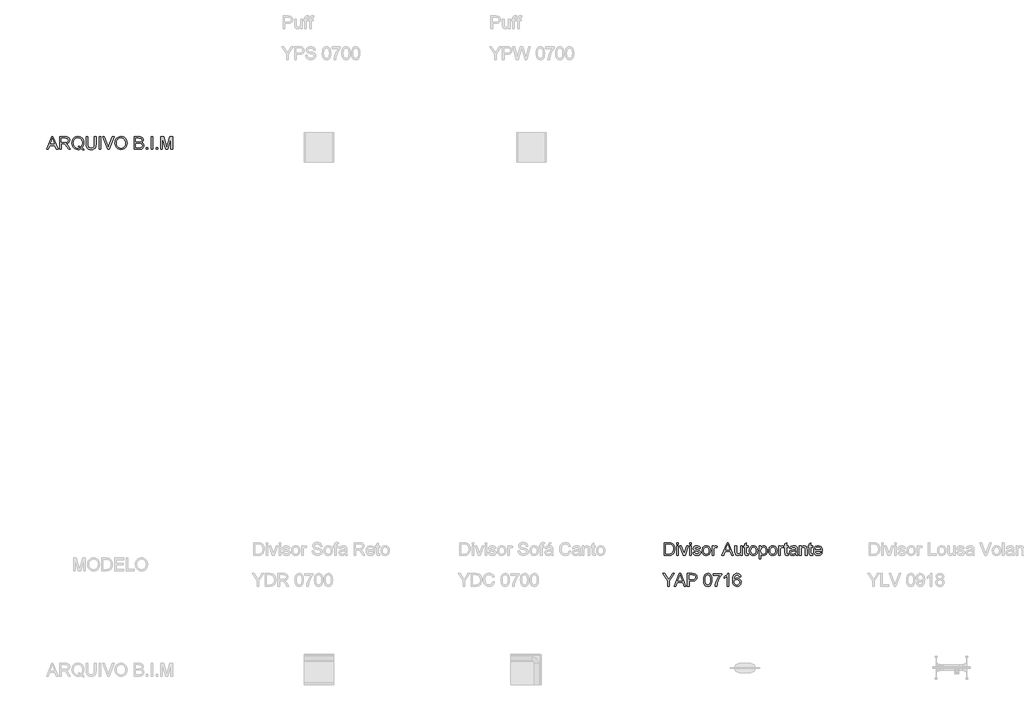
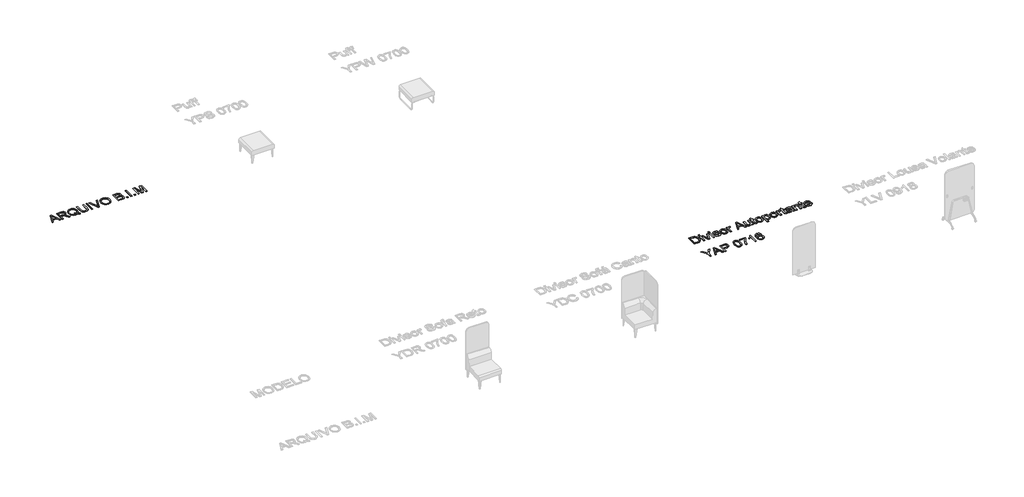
# One storey, part 7 of 26: 2 proxies.
"""IFC4 building model written with IfcOpenShell, lengths in millimetres."""

from ifc_helpers import new_model, si_unit, origin, origin_with_axes, place, context, project, spatial, polyline, outline, extrude, element, save

model = new_model("IFC4")

# Units and contexts
model_context = context("Model", 3, world=origin())
ifc_project = project(units=[si_unit("LENGTHUNIT", "METRE", prefix="MILLI")], contexts=[model_context])

# Site, building, storey
site = spatial("IfcSite", under=ifc_project)
building = spatial("IfcBuilding", under=site)
storey = spatial("IfcBuildingStorey", under=building, Name="Marelli - Linha YOUNG - Planta Baixa", Elevation=0.0)

# Proxies
placement = place(None, origin())
element("IfcBuildingElementProxy", 1, Name="300mm Arial", ObjectType="300mm Arial", at=placement, inside=storey, context=model_context, shape_type="SweptSolid", body=[
    extrude(outline(polyline([(-20609.419598, -10280.5663201), (-20489.1221856, -9979.1973896), (-20457.0428756, -9979.1973896), (-20336.7454632, -10280.5663201), (-20376.550295, -10280.5663201), (-20411.0576262, -10186.3885293), (-20535.1810114, -10186.3885293), (-20569.6147661, -10280.5663201), (-20609.419598, -10280.5663201)]), holes=[polyline([(-20521.3486483, -10148.717413), (-20424.8164128, -10148.717413), (-20451.9661041, -10074.6259792), (-20473.0825306, -10016.8685059), (-20491.8445123, -10068.1512561), (-20521.3486483, -10148.717413)])]), origin_with_axes(), (0.0, 0.0, 1.0), 10.0),
    extrude(outline(polyline([(-20296.4991729, -10280.5663201), (-20296.4991729, -9979.1973896), (-20166.6368286, -9979.1973896), (-20131.7340243, -9981.2299376), (-20106.3409696, -9987.3275817), (-20087.7813229, -9998.5847708), (-20073.3787428, -10016.0959537), (-20064.1357077, -10037.8101885), (-20061.054696, -10061.6765329), (-20066.1590587, -10091.3646099), (-20081.4721467, -10115.9759154), (-20093.0719259, -10126.0052983), (-20107.4538126, -10134.0205273), (-20144.5639089, -10144.0085235), (-20123.1531768, -10160.1217548), (-20092.6189712, -10198.8965171), (-20042.3662906, -10280.5663201), (-20086.144248, -10280.5663201), (-20125.3604687, -10218.0999573), (-20153.6873824, -10176.750021), (-20173.5897983, -10157.2154871), (-20191.5056515, -10150.0417882), (-20213.357842, -10148.717413), (-20258.8280566, -10148.717413), (-20258.8280566, -10280.5663201), (-20296.4991729, -10280.5663201)]), holes=[polyline([(-20258.8280566, -10111.0462967), (-20174.5095033, -10111.0462967), (-20150.293671, -10109.7127245), (-20131.5040981, -10105.7120078), (-20117.3590353, -10098.7774322), (-20107.0767336, -10088.6422832), (-20100.8135426, -10076.3826157), (-20098.7258123, -10063.0744845), (-20102.7081349, -10044.6987789), (-20114.6551027, -10029.8915286), (-20135.2105092, -10020.1242616), (-20165.0181478, -10016.8685059), (-20258.8280566, -10016.8685059), (-20258.8280566, -10111.0462967)])]), origin_with_axes(), (0.0, 0.0, 1.0), 10.0),
    extrude(outline(polyline([(-19768.7356626, -10244.4403081), (-19744.4002686, -10263.036743), (-19722.0146492, -10275.8574305), (-19732.1681923, -10303.4485802), (-19763.2358268, -10289.0460001), (-19794.1930967, -10268.205485), (-19829.0499157, -10281.0077785), (-19867.4016137, -10285.2752096), (-19905.9372527, -10280.3547879), (-19940.7572836, -10265.5935229), (-19969.9211287, -10241.9203165), (-19991.4882107, -10210.2640708), (-20004.814736, -10172.3630282), (-20009.2569111, -10129.9554312), (-20004.823933, -10087.511046), (-19991.5249989, -10049.0581805), (-19970.0406904, -10016.9512794), (-19941.0515892, -9993.5447874), (-19906.360317, -9979.2525719), (-19867.7694957, -9974.4885001), (-19828.8751718, -9979.3629365), (-19794.0091557, -9993.9862458), (-19765.0660397, -10017.3835407), (-19743.9404161, -10048.5799339), (-19731.0277581, -10085.9199564), (-19726.7235388, -10127.7481393), (-19729.3355009, -10162.5313819), (-19737.1713874, -10193.5990164), (-19750.2863806, -10220.9142546), (-19768.7356626, -10244.4403081)]), holes=[polyline([(-19857.0273415, -10194.3347804), (-19825.3527017, -10206.3093393), (-19799.784903, -10222.9559996), (-19784.3016695, -10205.4816049), (-19773.2422171, -10184.1076609), (-19766.6065456, -10158.8341679), (-19764.3946551, -10129.6611256), (-19767.521652, -10096.5057608), (-19776.9026429, -10067.8201623), (-19792.3077015, -10044.3308969), (-19813.5069014, -10026.7645316), (-19839.065503, -10015.8108452), (-19867.5487665, -10012.1596164), (-19889.033075, -10014.0059242), (-19908.6043972, -10019.5448474), (-19926.2627329, -10028.7763863), (-19942.0080823, -10041.7005406), (-19954.9483315, -10058.2897193), (-19964.1913666, -10078.5163313), (-19969.7371877, -10102.3803764), (-19971.5857948, -10129.8818548), (-19969.7578811, -10156.6659634), (-19964.2741401, -10180.1437324), (-19955.1345718, -10200.3151621), (-19942.3391761, -10217.1802523), (-19926.7018921, -10230.4906827), (-19909.0366585, -10239.998133), (-19889.3434755, -10245.7026032), (-19867.6223429, -10247.6040933), (-19846.7082515, -10245.6727128), (-19827.081747, -10239.8785714), (-19846.3771577, -10229.853787), (-19866.7394261, -10223.1767288), (-19857.0273415, -10194.3347804)])]), origin_with_axes(), (0.0, 0.0, 1.0), 10.0),
    extrude(outline(polyline([(-19472.4435037, -9979.1973896), (-19434.7723874, -9979.1973896), (-19434.7723874, -10153.0584205), (-19437.3291673, -10193.7737604), (-19444.9995069, -10225.1265034), (-19459.3285106, -10249.3147446), (-19481.8612828, -10268.5365788), (-19512.6530058, -10281.0905519), (-19551.7588619, -10285.2752096), (-19590.0093923, -10281.6331779), (-19620.5895832, -10270.7070826), (-19643.5086315, -10252.8740029), (-19658.7757343, -10228.5110178), (-19667.3565818, -10195.8338995), (-19670.2168643, -10153.0584205), (-19670.2168643, -9979.1973896), (-19632.545748, -9979.1973896), (-19632.545748, -10151.7340454), (-19630.6879439, -10185.588386), (-19625.1145317, -10209.1604248), (-19615.0161709, -10225.4851883), (-19599.5835212, -10237.597703), (-19579.4603761, -10245.1024957), (-19555.290529, -10247.6040933), (-19516.9756192, -10242.6560805), (-19502.6328199, -10236.4710644), (-19491.499791, -10227.812042), (-19483.1626653, -10215.6351479), (-19477.2075755, -10198.8965171), (-19472.4435037, -10151.7340454), (-19472.4435037, -9979.1973896)])), origin_with_axes(), (0.0, 0.0, 1.0), 10.0),
    extrude(outline(polyline([(-19364.1390443, -10280.5663201), (-19364.1390443, -9979.1973896), (-19326.467928, -9979.1973896), (-19326.467928, -10280.5663201), (-19364.1390443, -10280.5663201)])), origin_with_axes(), (0.0, 0.0, 1.0), 10.0),
    extrude(outline(polyline([(-19162.0982526, -10280.5663201), (-19282.027783, -9979.1973896), (-19241.7079163, -9979.1973896), (-19161.436065, -10196.3213432), (-19145.1756808, -10245.2496485), (-19129.1360258, -10196.3213432), (-19048.6434453, -9979.1973896), (-19008.3235786, -9979.1973896), (-19123.1763375, -10280.5663201), (-19162.0982526, -10280.5663201)])), origin_with_axes(), (0.0, 0.0, 1.0), 10.0),
    extrude(outline(polyline([(-18987.4278813, -10133.8549804), (-18984.9170866, -10098.5061192), (-18977.3847028, -10067.213157), (-18964.8307297, -10039.9760937), (-18947.2551674, -10016.7949295), (-18925.711078, -9998.2858666), (-18901.2515239, -9985.0651074), (-18873.8765049, -9977.1326519), (-18843.5860211, -9974.4885001), (-18804.0571008, -9979.454907), (-18768.6116705, -9994.3541278), (-18739.1811109, -10018.1376988), (-18717.6968024, -10049.7571563), (-18704.5634152, -10087.68579), (-18700.1856194, -10130.3968896), (-18704.7933414, -10173.6782064), (-18718.6165074, -10212.140269), (-18740.8917622, -10243.8149087), (-18770.8557507, -10266.733957), (-18805.9976783, -10280.6398965), (-18843.8067503, -10285.2752096), (-18883.942676, -10280.1524528), (-18919.5904413, -10264.7841825), (-18948.9474246, -10240.5591531), (-18970.2110039, -10208.8661192), (-18983.1236619, -10172.3998164), (-18987.4278813, -10133.8549804)]), holes=[polyline([(-18949.7567649, -10134.2228624), (-18947.873669, -10159.1974513), (-18942.2243811, -10181.3669401), (-18932.8089013, -10200.7313286), (-18919.6272295, -10217.2906169), (-18903.6036694, -10230.5527628), (-18885.6625243, -10240.0257242), (-18865.8037944, -10245.709501), (-18844.0274795, -10247.6040933), (-18821.8786842, -10245.6911069), (-18801.7854294, -10239.9521478), (-18783.7477154, -10230.3872159), (-18767.7655419, -10216.9963113), (-18754.6804392, -10200.0875351), (-18745.3339373, -10179.9689885), (-18739.7260361, -10156.6406715), (-18737.8567357, -10130.102584), (-18741.0573091, -10096.7540812), (-18750.6590292, -10067.9305269), (-18766.4135756, -10044.358488), (-18788.0726281, -10026.7645316), (-18814.2014468, -10015.8108452), (-18843.3652919, -10012.1596164), (-18864.3851494, -10013.9185522), (-18883.8874937, -10019.1953595), (-18901.8723248, -10027.9900385), (-18918.3396426, -10040.302589), (-18932.0846336, -10056.7262208), (-18941.9024844, -10077.8541437), (-18947.7931948, -10103.6863575), (-18949.7567649, -10134.2228624)])]), origin_with_axes(), (0.0, 0.0, 1.0), 10.0),
    extrude(outline(polyline([(-18530.665596, -10280.5663201), (-18530.665596, -9979.1973896), (-18415.6656844, -9979.1973896), (-18384.0370298, -9981.4138786), (-18359.3429509, -9988.0633457), (-18340.4154222, -9999.3113377), (-18326.0864185, -10015.3234015), (-18317.0641126, -10034.1589597), (-18314.0566773, -10053.8774346), (-18316.585866, -10072.0232141), (-18324.1734321, -10089.0837416), (-18336.874558, -10104.0105535), (-18354.7444259, -10115.7551862), (-18333.3980732, -10126.9020107), (-18317.6251326, -10143.8613707), (-18307.8854568, -10165.5112261), (-18304.6388982, -10190.7295368), (-18306.8553872, -10211.7447958), (-18313.5048543, -10231.2333445), (-18323.4284711, -10247.8064284), (-18335.4674094, -10260.0752929), (-18350.2102804, -10268.9596431), (-18368.2456952, -10275.3791839), (-18416.5486011, -10280.5663201), (-18530.665596, -10280.5663201)]), holes=[polyline([(-18492.9944797, -10101.6285176), (-18424.2005466, -10101.6285176), (-18384.0278328, -10098.3911561), (-18369.9655435, -10092.8085468), (-18359.8579857, -10084.4484284), (-18353.7603416, -10073.4395597), (-18351.7277936, -10059.9106994), (-18353.6223859, -10046.7773121), (-18359.3061627, -10035.3361821), (-18368.5216067, -10026.4058467), (-18381.0112004, -10020.8048433), (-18429.424471, -10016.8685059), (-18492.9944797, -10016.8685059), (-18492.9944797, -10101.6285176)]), polyline([(-18492.9944797, -10242.8952038), (-18415.7392607, -10242.8952038), (-18387.7802291, -10241.4236758), (-18364.1254168, -10233.2199073), (-18348.4536438, -10216.4812765), (-18343.8459218, -10204.6538704), (-18342.3100145, -10191.0974188), (-18344.1126363, -10175.3520694), (-18349.5205016, -10161.814012), (-18358.9658718, -10151.2282076), (-18372.8810083, -10144.3396173), (-18392.5902862, -10140.5596298), (-18419.4180807, -10139.2996339), (-18492.9944797, -10139.2996339), (-18492.9944797, -10242.8952038)])]), origin_with_axes(), (0.0, 0.0, 1.0), 10.0),
    extrude(outline(polyline([(-18248.1322237, -10280.5663201), (-18248.1322237, -10242.8952038), (-18210.4611074, -10242.8952038), (-18210.4611074, -10280.5663201), (-18248.1322237, -10280.5663201)])), origin_with_axes(), (0.0, 0.0, 1.0), 10.0),
    extrude(outline(polyline([(-18130.4099853, -10280.5663201), (-18130.4099853, -9979.1973896), (-18092.738869, -9979.1973896), (-18092.738869, -10280.5663201), (-18130.4099853, -10280.5663201)])), origin_with_axes(), (0.0, 0.0, 1.0), 10.0),
    extrude(outline(polyline([(-18012.6877468, -10280.5663201), (-18012.6877468, -10242.8952038), (-17975.0166305, -10242.8952038), (-17975.0166305, -10280.5663201), (-18012.6877468, -10280.5663201)])), origin_with_axes(), (0.0, 0.0, 1.0), 10.0),
    extrude(outline(polyline([(-17899.6743979, -10280.5663201), (-17899.6743979, -9979.1973896), (-17834.8535904, -9979.1973896), (-17773.196568, -10191.6124536), (-17760.7621565, -10235.9790223), (-17747.2976755, -10187.9336337), (-17686.6707227, -9979.1973896), (-17621.8499152, -9979.1973896), (-17621.8499152, -10280.5663201), (-17659.5210315, -10280.5663201), (-17659.5210315, -10016.8685059), (-17735.2311461, -10280.5663201), (-17786.293167, -10280.5663201), (-17862.0032816, -10016.8685059), (-17862.0032816, -10280.5663201), (-17899.6743979, -10280.5663201)])), origin_with_axes(), (0.0, 0.0, 1.0), 10.0),
])
element("IfcBuildingElementProxy", 2, Name="300mm Arial", ObjectType="300mm Arial", at=placement, inside=storey, context=model_context, shape_type="SweptSolid", body=[
    extrude(outline(polyline([(-5960.4525978, -19914.6418665), (-5960.4525978, -19613.2729361), (-5856.4891459, -19613.2729361), (-5802.7047983, -19617.6139436), (-5778.682104, -19625.983259), (-5758.411806, -19639.1718285), (-5737.571291, -19662.127665), (-5722.7272525, -19690.6753079), (-5713.8429023, -19724.262934), (-5710.8814523, -19762.3387205), (-5712.8864091, -19794.684745), (-5718.9012798, -19823.1496143), (-5728.0615414, -19847.3838408), (-5739.5026715, -19867.0379364), (-5752.6728469, -19882.5533595), (-5767.0202447, -19894.3715686), (-5783.4921611, -19903.1363571), (-5803.035892, -19909.4915186), (-5851.4859508, -19914.6418665), (-5960.4525978, -19914.6418665)]), holes=[polyline([(-5922.7814815, -19876.9707502), (-5856.121264, -19876.9707502), (-5828.5485084, -19875.6095868), (-5807.634417, -19871.5260967), (-5791.8522794, -19864.9594031), (-5779.6753854, -19856.1486293), (-5766.5879834, -19839.8422599), (-5756.7563371, -19818.7350304), (-5750.6035107, -19792.7349704), (-5748.5525686, -19761.7501093), (-5752.5716794, -19720.6944787), (-5764.6290118, -19690.3810023), (-5782.4436974, -19669.5588813), (-5803.7348678, -19656.9773171), (-5825.4031174, -19652.4523686), (-5857.1513335, -19650.9440524), (-5922.7814815, -19650.9440524), (-5922.7814815, -19876.9707502)])]), origin_with_axes(), (0.0, 0.0, 1.0), 10.0),
    extrude(outline(polyline([(-5663.7925569, -19650.9440524), (-5663.7925569, -19613.2729361), (-5626.1214406, -19613.2729361), (-5626.1214406, -19650.9440524), (-5663.7925569, -19650.9440524)])), origin_with_axes(), (0.0, 0.0, 1.0), 10.0),
    extrude(outline(polyline([(-5663.7925569, -19914.6418665), (-5663.7925569, -19693.3240582), (-5626.1214406, -19693.3240582), (-5626.1214406, -19914.6418665), (-5663.7925569, -19914.6418665)])), origin_with_axes(), (0.0, 0.0, 1.0), 10.0),
    extrude(outline(polyline([(-5515.3153836, -19914.6418665), (-5593.1592138, -19693.3240582), (-5553.2808055, -19693.3240582), (-5506.1183337, -19825.9087293), (-5491.9180887, -19870.4960271), (-5478.0121493, -19828.4103269), (-5430.5553719, -19693.3240582), (-5390.6769637, -19693.3240582), (-5467.5643006, -19914.6418665), (-5515.3153836, -19914.6418665)])), origin_with_axes(), (0.0, 0.0, 1.0), 10.0),
    extrude(outline(polyline([(-5357.7147369, -19914.6418665), (-5357.7147369, -19693.3240582), (-5320.0436206, -19693.3240582), (-5320.0436206, -19914.6418665), (-5357.7147369, -19914.6418665)])), origin_with_axes(), (0.0, 0.0, 1.0), 10.0),
    extrude(outline(polyline([(-5357.7147369, -19650.9440524), (-5357.7147369, -19613.2729361), (-5320.0436206, -19613.2729361), (-5320.0436206, -19650.9440524), (-5357.7147369, -19650.9440524)])), origin_with_axes(), (0.0, 0.0, 1.0), 10.0),
    extrude(outline(polyline([(-5277.6636147, -19848.717413), (-5239.9924984, -19844.0085235), (-5234.0512042, -19860.1217548), (-5222.5548919, -19871.9675551), (-5205.429985, -19879.2516186), (-5182.6029072, -19881.6796398), (-5160.0517409, -19879.4539537), (-5144.1960269, -19872.7768955), (-5134.815036, -19863.101599), (-5131.6880391, -19851.8811982), (-5134.8334301, -19842.2794781), (-5144.2696033, -19834.9586264), (-5183.0443656, -19824.2164721), (-5239.7717692, -19805.7855842), (-5254.1283641, -19796.5241549), (-5264.5302275, -19784.2644874), (-5270.8486008, -19769.7883309), (-5272.9547252, -19753.8774346), (-5271.262468, -19739.2817165), (-5266.1856965, -19725.8080384), (-5258.1842631, -19713.9898293), (-5247.7180203, -19704.3605181), (-5223.7689024, -19693.2136936), (-5191.3584987, -19688.6151687), (-5166.8391637, -19690.4637757), (-5145.5204021, -19696.0095968), (-5128.3771011, -19704.710006), (-5116.3841481, -19716.0223773), (-5108.437897, -19730.7836424), (-5103.4347018, -19749.8307327), (-5141.1058181, -19754.5396222), (-5145.8606929, -19742.6846249), (-5155.2692749, -19733.7542895), (-5169.4235347, -19728.1532861), (-5188.4154427, -19726.286285), (-5210.046904, -19728.0705127), (-5224.4678782, -19733.4231957), (-5232.5796762, -19741.1487176), (-5235.2836089, -19750.0514619), (-5230.7954486, -19761.0143453), (-5216.7423563, -19769.3284784), (-5184.2951644, -19777.3483059), (-5129.0025005, -19795.0802181), (-5114.3975853, -19803.5598981), (-5103.3243372, -19815.166575), (-5096.3437764, -19829.9370371), (-5094.0169227, -19847.9080726), (-5096.7484466, -19866.4861134), (-5104.943018, -19883.9605081), (-5118.2879374, -19898.9608965), (-5136.470505, -19910.116918), (-5158.4330601, -19917.0422966), (-5183.117942, -19919.3507561), (-5221.101758, -19914.8993839), (-5248.8216663, -19901.5452675), (-5267.3261307, -19879.4355596), (-5277.6636147, -19848.717413)])), origin_with_axes(), (0.0, 0.0, 1.0), 10.0),
    extrude(outline(polyline([(-5061.054696, -19803.9829624), (-5059.0175494, -19775.3203564), (-5052.9061098, -19750.621679), (-5042.720377, -19729.88693), (-5028.4603512, -19713.1161096), (-5014.1037563, -19702.3969479), (-4998.2572394, -19694.7404039), (-4980.9208004, -19690.1464775), (-4962.0944393, -19688.6151687), (-4941.3114058, -19690.4798706), (-4922.5195336, -19696.0739761), (-4905.7188228, -19705.3974855), (-4890.9092732, -19718.4503985), (-4878.8220504, -19734.7912569), (-4870.1883198, -19753.9786022), (-4865.0080815, -19776.0124344), (-4863.2813354, -19800.8927536), (-4866.3347559, -19838.950146), (-4875.4950176, -19867.9208531), (-4890.495406, -19889.6166938), (-4911.0692065, -19905.8494868), (-4935.5057681, -19915.9754388), (-4962.0944393, -19919.3507561), (-4983.1809754, -19917.492952), (-5002.1475915, -19911.9195398), (-5018.9942876, -19902.6305194), (-5033.7210637, -19889.6258909), (-5045.6795278, -19873.1263834), (-5054.2212879, -19853.3527261), (-5059.346344, -19830.3049191), (-5061.054696, -19803.9829624)]), holes=[polyline([(-5023.3835797, -19803.909386), (-5019.024178, -19838.0028499), (-5005.9459731, -19862.2922586), (-4986.2642864, -19876.8327945), (-4962.0944393, -19881.6796398), (-4938.0349568, -19876.8052033), (-4918.3900582, -19862.181894), (-4905.3118533, -19837.5705885), (-4900.9524517, -19802.7321636), (-4905.3394445, -19769.6319811), (-4918.5004228, -19745.6736661), (-4938.1729125, -19731.1331303), (-4962.0944393, -19726.286285), (-4986.2642864, -19731.1147362), (-5005.9459731, -19745.6000897), (-5019.024178, -19769.8343162), (-5023.3835797, -19803.909386)])]), origin_with_axes(), (0.0, 0.0, 1.0), 10.0),
    extrude(outline(polyline([(-4820.9013295, -19914.6418665), (-4820.9013295, -19693.3240582), (-4787.9391028, -19693.3240582), (-4787.9391028, -19726.0655558), (-4775.7622087, -19707.0828449), (-4764.5418079, -19695.8992322), (-4753.2846188, -19690.4361846), (-4740.9973602, -19688.6151687), (-4722.2353784, -19691.5214365), (-4703.1790911, -19700.2402397), (-4715.7606553, -19734.0118069), (-4729.0044071, -19728.2176655), (-4742.248159, -19726.286285), (-4753.496151, -19728.1440891), (-4763.5485265, -19733.7175013), (-4771.6695215, -19742.5834574), (-4777.1233721, -19754.318893), (-4781.7035029, -19775.3617432), (-4783.2302132, -19798.3175797), (-4783.2302132, -19914.6418665), (-4820.9013295, -19914.6418665)])), origin_with_axes(), (0.0, 0.0, 1.0), 10.0),
    extrude(outline(polyline([(-4592.2994577, -19914.6418665), (-4472.0020453, -19613.2729361), (-4439.9227353, -19613.2729361), (-4319.6253229, -19914.6418665), (-4359.4301548, -19914.6418665), (-4393.9374859, -19820.4640758), (-4518.0608711, -19820.4640758), (-4552.4946258, -19914.6418665), (-4592.2994577, -19914.6418665)]), holes=[polyline([(-4504.2285081, -19782.7929595), (-4407.6962725, -19782.7929595), (-4434.8459638, -19708.7015256), (-4455.9623903, -19650.9440524), (-4474.7243721, -19702.2268025), (-4504.2285081, -19782.7929595)])]), origin_with_axes(), (0.0, 0.0, 1.0), 10.0),
    extrude(outline(polyline([(-4142.821236, -19914.6418665), (-4142.821236, -19876.6028682), (-4156.4512639, -19895.3050692), (-4172.325372, -19908.6637841), (-4190.4435603, -19916.6790131), (-4210.8058287, -19919.3507561), (-4229.1539432, -19917.4745579), (-4246.2328649, -19911.8459634), (-4260.5618686, -19903.3846775), (-4270.6602293, -19893.0104052), (-4281.8806302, -19865.2721028), (-4284.0879222, -19830.2497368), (-4284.0879222, -19693.3240582), (-4246.4168059, -19693.3240582), (-4246.4168059, -19812.5178247), (-4244.1359375, -19850.924705), (-4238.6452987, -19863.7361954), (-4229.2367167, -19873.4758713), (-4216.5355908, -19879.6286976), (-4201.1673205, -19881.6796398), (-4184.9161333, -19879.5827124), (-4169.7134099, -19873.2919303), (-4157.1778309, -19863.3867076), (-4148.9280771, -19850.4464584), (-4144.3479463, -19832.7237433), (-4142.821236, -19808.4711227), (-4142.821236, -19693.3240582), (-4105.1501197, -19693.3240582), (-4105.1501197, -19914.6418665), (-4142.821236, -19914.6418665)])), origin_with_axes(), (0.0, 0.0, 1.0), 10.0),
    extrude(outline(polyline([(-3973.3012126, -19883.2247441), (-3968.5923231, -19915.7455125), (-3996.7720839, -19919.3507561), (-4014.853484, -19917.7872576), (-4028.3363591, -19913.0967622), (-4037.8645028, -19905.8678809), (-4044.0817085, -19896.6892252), (-4047.5030111, -19880.9254817), (-4048.6434453, -19853.9413373), (-4048.6434453, -19730.9951745), (-4076.8967825, -19730.9951745), (-4076.8967825, -19693.3240582), (-4048.6434453, -19693.3240582), (-4048.6434453, -19639.5397105), (-4010.9723289, -19617.3932144), (-4010.9723289, -19693.3240582), (-3973.3012126, -19693.3240582), (-3973.3012126, -19730.9951745), (-4010.9723289, -19730.9951745), (-4010.9723289, -19852.8376913), (-4008.9857662, -19872.2618607), (-4002.5478313, -19879.141254), (-3989.7087496, -19881.6796398), (-3973.3012126, -19883.2247441)])), origin_with_axes(), (0.0, 0.0, 1.0), 10.0),
    extrude(outline(polyline([(-3945.0478754, -19803.9829624), (-3943.0107289, -19775.3203564), (-3936.8992892, -19750.621679), (-3926.7135565, -19729.88693), (-3912.4535306, -19713.1161096), (-3898.0969358, -19702.3969479), (-3882.2504188, -19694.7404039), (-3864.9139798, -19690.1464775), (-3846.0876187, -19688.6151687), (-3825.3045852, -19690.4798706), (-3806.5127131, -19696.0739761), (-3789.7120022, -19705.3974855), (-3774.9024526, -19718.4503985), (-3762.8152298, -19734.7912569), (-3754.1814993, -19753.9786022), (-3749.0012609, -19776.0124344), (-3747.2745148, -19800.8927536), (-3750.3279354, -19838.950146), (-3759.488197, -19867.9208531), (-3774.4885854, -19889.6166938), (-3795.062386, -19905.8494868), (-3819.4989475, -19915.9754388), (-3846.0876187, -19919.3507561), (-3867.1741548, -19917.492952), (-3886.1407709, -19911.9195398), (-3902.987467, -19902.6305194), (-3917.7142432, -19889.6258909), (-3929.6727073, -19873.1263834), (-3938.2144673, -19853.3527261), (-3943.3395234, -19830.3049191), (-3945.0478754, -19803.9829624)]), holes=[polyline([(-3907.3767591, -19803.909386), (-3903.0173575, -19838.0028499), (-3889.9391525, -19862.2922586), (-3870.2574658, -19876.8327945), (-3846.0876187, -19881.6796398), (-3822.0281362, -19876.8052033), (-3802.3832377, -19862.181894), (-3789.3050328, -19837.5705885), (-3784.9456311, -19802.7321636), (-3789.3326239, -19769.6319811), (-3802.4936023, -19745.6736661), (-3822.166092, -19731.1331303), (-3846.0876187, -19726.286285), (-3870.2574658, -19731.1147362), (-3889.9391525, -19745.6000897), (-3903.0173575, -19769.8343162), (-3907.3767591, -19803.909386)])]), origin_with_axes(), (0.0, 0.0, 1.0), 10.0),
    extrude(outline(polyline([(-3704.894509, -19999.4018782), (-3704.894509, -19693.3240582), (-3667.2233927, -19693.3240582), (-3667.2233927, -19730.2594105), (-3654.936134, -19712.0400547), (-3641.1773474, -19699.0262292), (-3625.1376924, -19691.2179338), (-3606.0078287, -19688.6151687), (-3580.5320005, -19692.2572004), (-3558.2567457, -19703.1832957), (-3540.1201633, -19720.7312669), (-3527.0603525, -19744.2389264), (-3519.1692837, -19771.9956229), (-3516.5389274, -19802.2907052), (-3519.5095745, -19834.5079709), (-3528.4215159, -19863.3223282), (-3542.9896429, -19887.2714461), (-3562.928847, -19904.8929937), (-3586.151398, -19915.7363155), (-3610.5695654, -19919.3507561), (-3627.8876103, -19916.931932), (-3643.3478512, -19909.6754596), (-3656.5824059, -19898.7217732), (-3667.2233927, -19885.2113069), (-3667.2233927, -19999.4018782), (-3704.894509, -19999.4018782)]), holes=[polyline([(-3667.2233927, -19805.748796), (-3663.1490996, -19839.5203631), (-3650.9262203, -19863.1383872), (-3632.8908055, -19877.0443266), (-3611.3789058, -19881.6796398), (-3589.5175182, -19876.8787797), (-3571.0222509, -19862.4761996), (-3558.4130955, -19837.9936528), (-3554.2100437, -19802.9528928), (-3558.311928, -19769.3652666), (-3570.6175807, -19745.4161488), (-3588.6254044, -19731.0687509), (-3609.8338014, -19726.286285), (-3631.1249719, -19731.3722536), (-3649.8225743, -19746.6301593), (-3662.8731881, -19771.5817557), (-3667.2233927, -19805.748796)])]), origin_with_axes(), (0.0, 0.0, 1.0), 10.0),
    extrude(outline(polyline([(-3483.5767007, -19803.9829624), (-3481.5395541, -19775.3203564), (-3475.4281145, -19750.621679), (-3465.2423817, -19729.88693), (-3450.9823559, -19713.1161096), (-3436.625761, -19702.3969479), (-3420.7792441, -19694.7404039), (-3403.4428051, -19690.1464775), (-3384.616444, -19688.6151687), (-3363.8334105, -19690.4798706), (-3345.0415383, -19696.0739761), (-3328.2408275, -19705.3974855), (-3313.4312779, -19718.4503985), (-3301.3440551, -19734.7912569), (-3292.7103245, -19753.9786022), (-3287.5300862, -19776.0124344), (-3285.8033401, -19800.8927536), (-3288.8567606, -19838.950146), (-3298.0170223, -19867.9208531), (-3313.0174106, -19889.6166938), (-3333.5912112, -19905.8494868), (-3358.0277728, -19915.9754388), (-3384.616444, -19919.3507561), (-3405.7029801, -19917.492952), (-3424.6695962, -19911.9195398), (-3441.5162923, -19902.6305194), (-3456.2430684, -19889.6258909), (-3468.2015325, -19873.1263834), (-3476.7432926, -19853.3527261), (-3481.8683486, -19830.3049191), (-3483.5767007, -19803.9829624)]), holes=[polyline([(-3445.9055844, -19803.909386), (-3441.5461827, -19838.0028499), (-3428.4679778, -19862.2922586), (-3408.786291, -19876.8327945), (-3384.616444, -19881.6796398), (-3360.5569615, -19876.8052033), (-3340.9120629, -19862.181894), (-3327.833858, -19837.5705885), (-3323.4744564, -19802.7321636), (-3327.8614492, -19769.6319811), (-3341.0224275, -19745.6736661), (-3360.6949172, -19731.1331303), (-3384.616444, -19726.286285), (-3408.786291, -19731.1147362), (-3428.4679778, -19745.6000897), (-3441.5461827, -19769.8343162), (-3445.9055844, -19803.909386)])]), origin_with_axes(), (0.0, 0.0, 1.0), 10.0),
    extrude(outline(polyline([(-3022.1055259, -19883.2247441), (-3017.3966364, -19915.7455125), (-3045.5763972, -19919.3507561), (-3063.6577973, -19917.7872576), (-3077.1406724, -19913.0967622), (-3086.6688161, -19905.8678809), (-3092.8860218, -19896.6892252), (-3096.3073243, -19880.9254817), (-3097.4477585, -19853.9413373), (-3097.4477585, -19730.9951745), (-3125.7010958, -19730.9951745), (-3125.7010958, -19700.2402397), (-3125.7010958, -19693.3240582), (-3097.4477585, -19693.3240582), (-3097.4477585, -19639.5397105), (-3059.7766422, -19617.3932144), (-3059.7766422, -19693.3240582), (-3022.1055259, -19693.3240582), (-3022.1055259, -19730.9951745), (-3059.7766422, -19730.9951745), (-3059.7766422, -19852.8376913), (-3057.7900794, -19872.2618607), (-3051.3521445, -19879.141254), (-3038.5130629, -19881.6796398), (-3022.1055259, -19883.2247441)])), origin_with_axes(), (0.0, 0.0, 1.0), 10.0),
    extrude(outline(polyline([(-3243.4233342, -19914.6418665), (-3243.4233342, -19693.3240582), (-3210.4611074, -19693.3240582), (-3210.4611074, -19726.0655558), (-3198.2842134, -19707.0828449), (-3187.0638125, -19695.8992322), (-3175.8066235, -19690.4361846), (-3163.5193649, -19688.6151687), (-3144.7573831, -19691.5214365), (-3125.7010958, -19700.2402397), (-3138.28266, -19734.0118069), (-3151.5264118, -19728.2176655), (-3164.7701636, -19726.286285), (-3176.0181556, -19728.1440891), (-3186.0705312, -19733.7175013), (-3194.1915262, -19742.5834574), (-3199.6453768, -19754.318893), (-3204.2255076, -19775.3617432), (-3205.7522179, -19798.3175797), (-3205.7522179, -19914.6418665), (-3243.4233342, -19914.6418665)])), origin_with_axes(), (0.0, 0.0, 1.0), 10.0),
    extrude(outline(polyline([(-2843.1677235, -19886.3885293), (-2861.1663501, -19901.821179), (-2879.6984056, -19911.9195398), (-2899.1869543, -19917.492952), (-2920.0550604, -19919.3507561), (-2951.5365622, -19914.8809898), (-2974.7591131, -19901.4716911), (-2989.0789198, -19881.1094227), (-2993.8521887, -19855.7807473), (-2992.0495669, -19840.1641566), (-2986.6417016, -19825.9823057), (-2978.2999773, -19813.8421999), (-2967.6957788, -19804.3508444), (-2941.3186398, -19791.9900093), (-2908.724295, -19786.3246266), (-2870.2070501, -19780.3649383), (-2843.3884527, -19773.3751804), (-2843.1677235, -19764.9874709), (-2845.7612915, -19748.1752637), (-2853.5419957, -19737.1755921), (-2870.9428141, -19729.0086118), (-2895.1862376, -19726.286285), (-2917.6270393, -19728.0981038), (-2933.2988123, -19733.5335603), (-2943.9857842, -19743.5859358), (-2951.4721828, -19759.2485118), (-2989.1432991, -19754.5396222), (-2982.6041967, -19733.9382305), (-2972.8461268, -19717.7514227), (-2958.9585814, -19705.3721936), (-2940.0310528, -19696.1935378), (-2916.8820782, -19690.509761), (-2890.3301952, -19688.6151687), (-2864.8635641, -19690.2890318), (-2844.6760396, -19695.310621), (-2829.4549221, -19702.861399), (-2818.8875118, -19712.1228282), (-2811.8793598, -19723.5731553), (-2807.3360171, -19737.6906269), (-2805.4966071, -19770.6528536), (-2805.4966071, -19817.5210198), (-2803.5836208, -19882.9672267), (-2796.0788281, -19914.6418665), (-2833.7499444, -19914.6418665), (-2843.1677235, -19886.3885293)]), holes=[polyline([(-2843.1677235, -19811.0462967), (-2903.9418291, -19822.5977913), (-2936.3522328, -19828.7046325), (-2951.0307244, -19838.6374463), (-2956.1810724, -19853.1319969), (-2953.3759722, -19864.3340037), (-2944.9606715, -19873.5126595), (-2931.1191115, -19879.6378947), (-2912.035233, -19881.6796398), (-2891.8017232, -19879.4263625), (-2873.9226583, -19872.6665309), (-2859.4281076, -19862.7061259), (-2849.348141, -19850.8511286), (-2844.8783747, -19838.6374463), (-2843.3884527, -19821.7148746), (-2843.1677235, -19811.0462967)])]), origin_with_axes(), (0.0, 0.0, 1.0), 10.0),
    extrude(outline(polyline([(-2753.6988222, -19914.6418665), (-2753.6988222, -19693.3240582), (-2716.0277059, -19693.3240582), (-2716.0277059, -19724.2261458), (-2702.9403039, -19708.6463433), (-2687.2225457, -19697.517913), (-2668.8744312, -19690.8408548), (-2647.8959604, -19688.6151687), (-2629.3271167, -19690.4085934), (-2612.3217715, -19695.7888676), (-2598.1399206, -19704.0846066), (-2588.0415598, -19714.6244258), (-2576.7475825, -19742.32594), (-2574.7610198, -19778.7462575), (-2574.7610198, -19914.6418665), (-2612.4321361, -19914.6418665), (-2612.4321361, -19783.823029), (-2616.7731436, -19750.4929203), (-2622.7788172, -19740.5693035), (-2632.1138228, -19732.8713727), (-2644.0791847, -19727.9325569), (-2657.9759271, -19726.286285), (-2680.0396497, -19729.9834991), (-2698.8476167, -19741.0751412), (-2706.3639058, -19750.1296368), (-2711.7326836, -19762.5042674), (-2716.0277059, -19797.2139337), (-2716.0277059, -19914.6418665), (-2753.6988222, -19914.6418665)])), origin_with_axes(), (0.0, 0.0, 1.0), 10.0),
    extrude(outline(polyline([(-2442.9121127, -19883.2247441), (-2438.2032232, -19915.7455125), (-2466.382984, -19919.3507561), (-2484.4643841, -19917.7872576), (-2497.9472592, -19913.0967622), (-2507.4754029, -19905.8678809), (-2513.6926086, -19896.6892252), (-2517.1139111, -19880.9254817), (-2518.2543453, -19853.9413373), (-2518.2543453, -19730.9951745), (-2546.5076825, -19730.9951745), (-2546.5076825, -19693.3240582), (-2518.2543453, -19693.3240582), (-2518.2543453, -19639.5397105), (-2480.583229, -19617.3932144), (-2480.583229, -19693.3240582), (-2442.9121127, -19693.3240582), (-2442.9121127, -19730.9951745), (-2480.583229, -19730.9951745), (-2480.583229, -19852.8376913), (-2478.5966662, -19872.2618607), (-2472.1587313, -19879.141254), (-2459.3196497, -19881.6796398), (-2442.9121127, -19883.2247441)])), origin_with_axes(), (0.0, 0.0, 1.0), 10.0),
    extrude(outline(polyline([(-2250.2891, -19848.717413), (-2213.3537477, -19853.4263025), (-2226.6618789, -19881.2565755), (-2247.8978671, -19902.0603023), (-2276.5834656, -19915.0281426), (-2312.240428, -19919.3507561), (-2335.6147303, -19917.4860542), (-2356.4414497, -19911.8919486), (-2374.7205864, -19902.5684393), (-2390.4521402, -19889.5155263), (-2403.1026823, -19873.096493), (-2412.1387838, -19853.6746229), (-2417.5604447, -19831.249916), (-2419.367665, -19805.8223724), (-2417.5420506, -19779.5326053), (-2412.0652074, -19756.3606381), (-2402.9371354, -19736.3064708), (-2390.1578346, -19719.3701035), (-2374.4676675, -19705.9148195), (-2356.6069966, -19696.3039024), (-2336.575822, -19690.5373521), (-2314.3741436, -19688.6151687), (-2292.8875358, -19690.5327536), (-2273.4564687, -19696.2855083), (-2256.0809422, -19705.8734328), (-2240.7609564, -19719.2965271), (-2228.2552678, -19736.1961062), (-2219.3226331, -19756.2134853), (-2213.9630523, -19779.3486643), (-2212.1765253, -19805.6016432), (-2212.3972545, -19815.7551862), (-2381.6965487, -19815.7551862), (-2375.1758403, -19843.9533412), (-2360.0282992, -19864.6834916), (-2338.1669116, -19877.4306027), (-2311.504664, -19881.6796398), (-2291.4550953, -19879.7114711), (-2274.5693117, -19873.8069651), (-2260.8473133, -19863.5982397), (-2250.2891, -19848.717413)]), holes=[polyline([(-2381.6965487, -19778.0840699), (-2249.8476416, -19778.0840699), (-2254.9428073, -19758.181654), (-2264.9308034, -19743.9446208), (-2286.8933585, -19730.7008689), (-2314.5212964, -19726.286285), (-2339.9143511, -19729.8087551), (-2360.911216, -19740.3761654), (-2375.5069341, -19756.8480818), (-2381.6965487, -19778.0840699)])]), origin_with_axes(), (0.0, 0.0, 1.0), 10.0),
    extrude(outline(polyline([(-5722.4329469, -20646.4907736), (-5602.1355345, -20345.1218432), (-5570.0562245, -20345.1218432), (-5449.7588121, -20646.4907736), (-5489.563644, -20646.4907736), (-5524.0709751, -20552.3129828), (-5648.1943603, -20552.3129828), (-5682.628115, -20646.4907736), (-5722.4329469, -20646.4907736)]), holes=[polyline([(-5634.3619973, -20514.6418665), (-5537.8297617, -20514.6418665), (-5564.979453, -20440.5504327), (-5586.0958795, -20382.7929595), (-5604.8578612, -20434.0757096), (-5634.3619973, -20514.6418665)])]), origin_with_axes(), (0.0, 0.0, 1.0), 10.0),
    extrude(outline(polyline([(-5875.6925861, -20646.4907736), (-5875.6925861, -20518.8357213), (-5993.4148246, -20345.1218432), (-5948.9746795, -20345.1218432), (-5886.1404348, -20437.9016823), (-5853.9875484, -20485.2113069), (-5821.7610856, -20434.517168), (-5764.7393764, -20345.1218432), (-5720.2992313, -20345.1218432), (-5838.0214698, -20518.8357213), (-5838.0214698, -20646.4907736), (-5875.6925861, -20646.4907736)])), origin_with_axes(), (0.0, 0.0, 1.0), 10.0),
    extrude(outline(polyline([(-5409.5125218, -20646.4907736), (-5409.5125218, -20345.1218432), (-5297.8235481, -20345.1218432), (-5252.7947919, -20347.9913227), (-5232.717632, -20353.3532028), (-5216.1905333, -20362.0812031), (-5202.8824022, -20374.5707969), (-5192.4621447, -20391.2174572), (-5185.7299041, -20410.8531586), (-5183.485824, -20432.309876), (-5185.0010379, -20450.8097418), (-5189.5466798, -20467.8288826), (-5197.1227497, -20483.3672984), (-5207.7292475, -20497.4249892), (-5222.2904767, -20509.0776514), (-5241.7307409, -20517.4009815), (-5266.05004, -20522.3949796), (-5295.2483741, -20524.0596456), (-5371.8414055, -20524.0596456), (-5371.8414055, -20646.4907736), (-5409.5125218, -20646.4907736)]), holes=[polyline([(-5371.8414055, -20486.3885293), (-5293.0410821, -20486.3885293), (-5259.637397, -20482.9304385), (-5237.5644773, -20472.5561663), (-5225.2588245, -20455.909506), (-5221.1569403, -20433.6342512), (-5223.5757644, -20416.7116794), (-5230.8322368, -20402.437858), (-5242.0250465, -20391.6957037), (-5256.2528826, -20385.3681334), (-5293.9239989, -20382.7929595), (-5371.8414055, -20382.7929595), (-5371.8414055, -20486.3885293)])]), origin_with_axes(), (0.0, 0.0, 1.0), 10.0),
    extrude(outline(polyline([(-5028.0924692, -20498.2343295), (-5025.3241572, -20449.9958029), (-5017.0192212, -20411.5245433), (-5003.2604345, -20382.2319394), (-4984.1305708, -20361.5293801), (-4959.4916742, -20349.2237274), (-4929.2057889, -20345.1218432), (-4905.992435, -20347.5498643), (-4885.2071023, -20354.8339278), (-4867.824678, -20366.6889251), (-4854.8200495, -20382.8297477), (-4844.9976002, -20403.1184397), (-4837.1617137, -20427.4170455), (-4832.0297599, -20458.2731478), (-4830.3191086, -20498.2343295), (-4833.0598295, -20546.1969447), (-4841.2819921, -20584.5762338), (-4854.9580052, -20613.8964288), (-4874.0602778, -20634.6817616), (-4898.7543568, -20647.0701877), (-4929.2057889, -20651.1996631), (-4949.9543334, -20649.4062384), (-4968.3484332, -20644.0259642), (-4984.3880882, -20635.0588406), (-4998.0732984, -20622.5048675), (-5011.2066856, -20599.8111469), (-5020.5876765, -20571.5348171), (-5026.216271, -20537.675878), (-5028.0924692, -20498.2343295)]), holes=[polyline([(-4990.4213529, -20498.1607531), (-4986.006769, -20557.4173455), (-4980.488539, -20577.6853442), (-4972.7630171, -20591.7131445), (-4953.0445422, -20608.0746963), (-4929.2057889, -20613.5285468), (-4905.3670356, -20608.0563022), (-4885.6485607, -20591.6395681), (-4877.9230388, -20577.5887752), (-4872.4048089, -20557.325375), (-4867.9902249, -20498.1607531), (-4872.2576561, -20440.237733), (-4877.591945, -20420.0364129), (-4885.0599495, -20405.6752196), (-4904.7416362, -20388.5135245), (-4929.6472473, -20382.7929595), (-4953.2284832, -20387.8329428), (-4972.1744059, -20402.9528928), (-4980.1574452, -20418.5878776), (-4985.8596162, -20439.6675159), (-4990.4213529, -20498.1607531)])]), origin_with_axes(), (0.0, 0.0, 1.0), 10.0),
    extrude(outline(polyline([(-4797.3568818, -20387.501849), (-4797.3568818, -20349.8307327), (-4599.5835212, -20349.8307327), (-4599.5835212, -20380.2913619), (-4627.7724791, -20415.9667184), (-4655.6855255, -20461.3357654), (-4680.306028, -20512.2598306), (-4698.6173543, -20564.6002415), (-4707.593675, -20603.7612799), (-4712.5968701, -20646.4907736), (-4750.2679865, -20646.4907736), (-4746.1936934, -20607.660829), (-4735.2951892, -20561.5100327), (-4717.8667797, -20512.5909244), (-4694.2027704, -20465.4560438), (-4666.5748325, -20422.8461117), (-4637.2546375, -20387.501849), (-4797.3568818, -20387.501849)])), origin_with_axes(), (0.0, 0.0, 1.0), 10.0),
    extrude(outline(polyline([(-4425.3546083, -20646.4907736), (-4463.0257246, -20646.4907736), (-4463.0257246, -20411.6349079), (-4498.7102782, -20437.0555537), (-4538.3679572, -20456.0750529), (-4538.3679572, -20420.4640758), (-4508.7810478, -20404.3692385), (-4483.1488698, -20385.2209806), (-4462.9429512, -20364.8587122), (-4449.63482, -20345.1218432), (-4425.3546083, -20345.1218432), (-4425.3546083, -20646.4907736)])), origin_with_axes(), (0.0, 0.0, 1.0), 10.0),
    extrude(outline(polyline([(-4142.821236, -20425.1729653), (-4180.4923523, -20429.8818548), (-4186.5624052, -20411.2118436), (-4194.7661737, -20398.4647325), (-4211.8542924, -20386.7109027), (-4232.5108664, -20382.7929595), (-4250.0220494, -20385.0738278), (-4266.5031628, -20391.9164329), (-4280.6574226, -20406.3282101), (-4292.2181143, -20426.1662467), (-4300.0264096, -20454.2264459), (-4302.9234803, -20493.3047108), (-4287.8127274, -20475.6739662), (-4269.7037362, -20463.2487518), (-4249.6081822, -20455.8819149), (-4228.5377409, -20453.4263025), (-4210.4379467, -20455.1047641), (-4193.7361041, -20460.1401489), (-4178.4322131, -20468.532457), (-4164.5262737, -20480.2816882), (-4152.9701806, -20494.6888668), (-4144.7158283, -20511.0550171), (-4139.7632169, -20529.380139), (-4138.1123465, -20549.6642325), (-4141.2209493, -20576.6391798), (-4150.5467579, -20601.6459584), (-4165.31722, -20622.8543554), (-4184.7597835, -20638.4341579), (-4207.9915315, -20648.0082868), (-4234.1295472, -20651.1996631), (-4256.5864438, -20649.0843417), (-4276.868238, -20642.7383773), (-4294.97493, -20632.1617699), (-4310.9065196, -20617.3545196), (-4323.8950533, -20597.6912269), (-4333.1725774, -20572.5464926), (-4338.7390918, -20541.9203165), (-4340.5945966, -20505.8126986), (-4338.5344575, -20465.3318836), (-4332.3540399, -20430.7831657), (-4322.0533441, -20402.166545), (-4307.6323699, -20379.4820215), (-4292.0019836, -20364.4494435), (-4273.8791968, -20353.7118877), (-4253.2640095, -20347.2693543), (-4230.1564217, -20345.1218432), (-4197.1022244, -20350.437738), (-4170.6331149, -20366.3854225), (-4152.0918623, -20391.7140978), (-4142.821236, -20425.1729653)]), holes=[polyline([(-4302.9234803, -20549.0756213), (-4300.7437795, -20565.7682668), (-4294.204677, -20581.7067543), (-4284.051134, -20595.4103586), (-4271.0281113, -20605.3983547), (-4255.3103531, -20611.4959988), (-4237.0726032, -20613.5285468), (-4212.2129774, -20609.316298), (-4192.6692464, -20596.6795515), (-4180.0049087, -20576.8139237), (-4175.7834628, -20550.9150313), (-4179.9497264, -20526.0554054), (-4192.4485172, -20507.1002856), (-4212.323342, -20495.0981355), (-4238.6177076, -20491.0974188), (-4263.4405452, -20495.0981355), (-4284.1982868, -20507.1002856), (-4298.2421819, -20525.5955529), (-4302.9234803, -20549.0756213)])]), origin_with_axes(), (0.0, 0.0, 1.0), 10.0),
])

save(model, "model.ifc")
